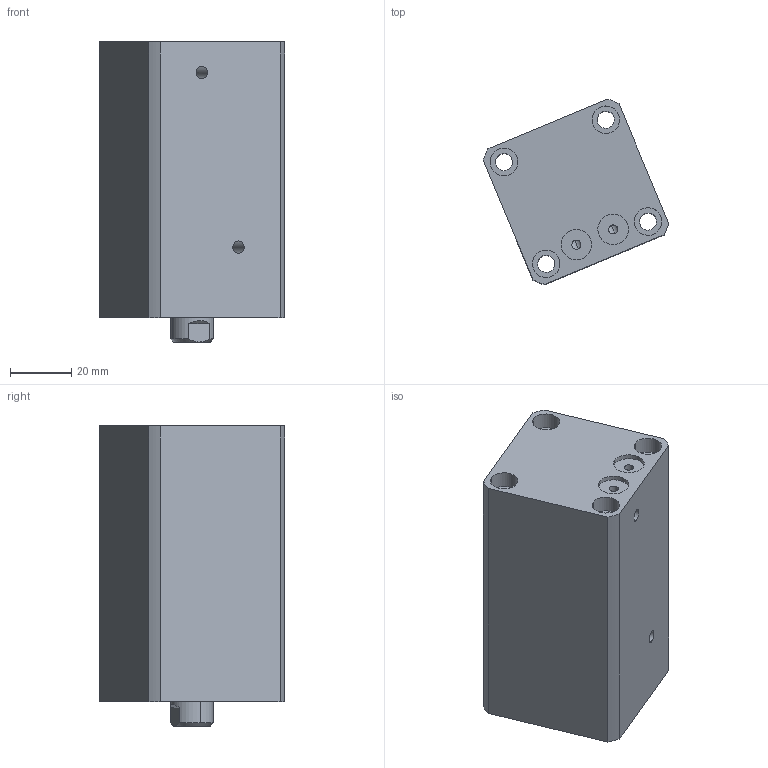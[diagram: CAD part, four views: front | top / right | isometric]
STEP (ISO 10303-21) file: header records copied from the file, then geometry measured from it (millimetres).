
FILE_DESCRIPTION (( 'STEP AP214' ), '1' );
FILE_NAME ('chtb-sdmb25x45n_asm.STEP', '2018-05-24T01:37:38', ( 'Windows' ), ( 'Microsoft' ), 'SwSTEP 2.0', 'SolidWorks 2015', '' );
FILE_SCHEMA (( 'AUTOMOTIVE_DESIGN' ));
Length unit declared in the file: millimetre
Products named in the file (4): CHTB-SDMB25X45NHSG; CHTB-SDMB25X45NBT; CHTB-25QG; chtb-sdmb25x45n_asm
Assembly tree (3 placements, depth 2):
  chtb-sdmb25x45n_asm
    CHTB-25QG
    CHTB-SDMB25X45NBT
    CHTB-SDMB25X45NHSG
Bounding box: 60.55 x 60.55 x 98 mm (x, y, z)
Volume: 177871.3 mm3; surface area: 47254.5 mm2
Topology: 3 solids, 3 shells, 142 faces, 379 edges, 257 vertices
Faces by surface type: cylinder 89, plane 34, bspline 10, cone 9
Entity records: 8024 total; most frequent: CARTESIAN_POINT 4397, ORIENTED_EDGE 746, DIRECTION 661, EDGE_CURVE 373, AXIS2_PLACEMENT_3D 272, VERTEX_POINT 257, EDGE_LOOP 180, ADVANCED_FACE 142
